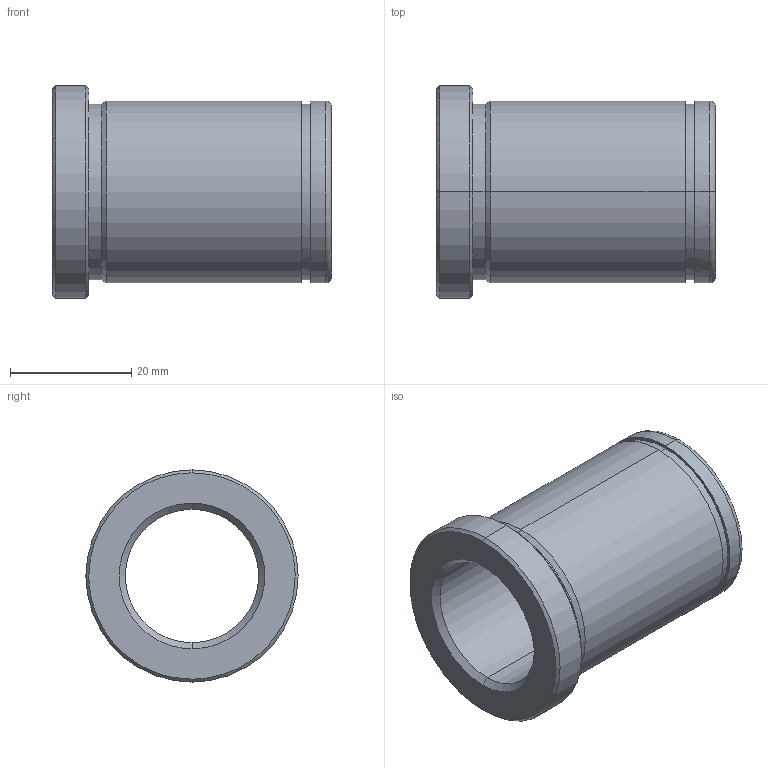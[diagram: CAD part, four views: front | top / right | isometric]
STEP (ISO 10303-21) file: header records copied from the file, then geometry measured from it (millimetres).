
FILE_DESCRIPTION(('CATIA V5 STEP Exchange'),'2;1');
FILE_NAME('C:\Users\Utente\Desktop\IO LAVORO\3D X SITO CF\X SITO\PLASTICA\553\553-22X46.stp','2021-05-25T18:11:39+00:00',('none'),('none'),'CATIA Version 5 Release 20 GA (IN-10)','CATIA V5 STEP AP203','none');
FILE_SCHEMA(('CONFIG_CONTROL_DESIGN'));
Length unit declared in the file: millimetre
Products named in the file (1): 553-22X46
Bounding box: 46 x 35 x 35 mm (x, y, z)
Volume: 16256.7 mm3; surface area: 8723 mm2
Topology: 1 solids, 1 shells, 29 faces, 92 edges, 68 vertices
Faces by surface type: cylinder 12, cone 8, plane 5, torus 4
Entity records: 1222 total; most frequent: CARTESIAN_POINT 368, ORIENTED_EDGE 184, DIRECTION 136, EDGE_CURVE 92, AXIS2_PLACEMENT_3D 88, VERTEX_POINT 68, CIRCLE 58, EDGE_LOOP 34
